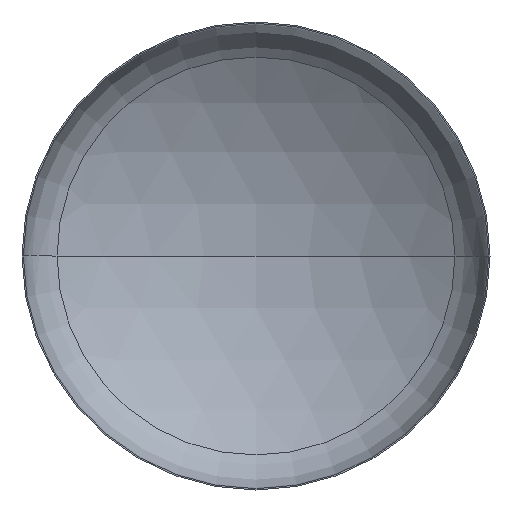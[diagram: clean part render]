
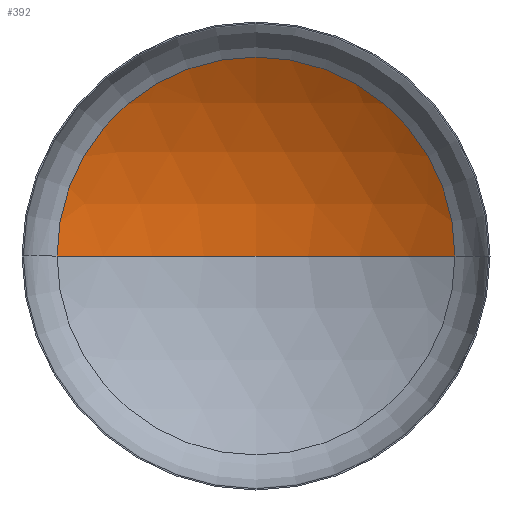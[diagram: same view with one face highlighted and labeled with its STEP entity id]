
A CAD part, front view. The second image highlights one B-rep face of the part: STEP entity #392.
In plain terms, the highlighted spherical face has radius 5200 mm.
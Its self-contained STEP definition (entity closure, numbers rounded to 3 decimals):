
#1 = CIRCLE ( 'NONE', #61, 5200. ) ;
#2 = CARTESIAN_POINT ( 'NONE',  ( 0., -3502.833, 0. ) ) ;
#28 = VERTEX_POINT ( 'NONE', #169 ) ;
#38 = ORIENTED_EDGE ( 'NONE', *, *, #121, .T. ) ;
#48 = ORIENTED_EDGE ( 'NONE', *, *, #122, .T. ) ;
#49 = VERTEX_POINT ( 'NONE', #74 ) ;
#58 = VERTEX_POINT ( 'NONE', #183 ) ;
#59 = AXIS2_PLACEMENT_3D ( 'NONE', #2, #270, #70 ) ;
#61 = AXIS2_PLACEMENT_3D ( 'NONE', #204, #364, #226 ) ;
#64 = AXIS2_PLACEMENT_3D ( 'NONE', #293, #132, #313 ) ;
#70 = DIRECTION ( 'NONE',  ( 1., 0., 0. ) ) ;
#74 = CARTESIAN_POINT ( 'NONE',  ( 2763.429, 902.103, 0. ) ) ;
#101 = ORIENTED_EDGE ( 'NONE', *, *, #124, .F. ) ;
#121 = EDGE_CURVE ( 'NONE', #49, #28, #164, .T. ) ;
#122 = EDGE_CURVE ( 'NONE', #58, #49, #1, .T. ) ;
#124 = EDGE_CURVE ( 'NONE', #58, #28, #347, .T. ) ;
#132 = DIRECTION ( 'NONE',  ( 0., -1., 0. ) ) ;
#153 = EDGE_LOOP ( 'NONE', ( #101, #48, #38 ) ) ;
#164 = CIRCLE ( 'NONE', #64, 2763.429 ) ;
#169 = CARTESIAN_POINT ( 'NONE',  ( -2763.429, 902.103, 0. ) ) ;
#183 = CARTESIAN_POINT ( 'NONE',  ( 0., 1697.167, 0. ) ) ;
#188 = DIRECTION ( 'NONE',  ( -1., 0., 0. ) ) ;
#204 = CARTESIAN_POINT ( 'NONE',  ( 0., -3502.833, 0. ) ) ;
#226 = DIRECTION ( 'NONE',  ( -1., 0., 0. ) ) ;
#234 = CARTESIAN_POINT ( 'NONE',  ( 0., -3502.833, 0. ) ) ;
#240 = FACE_OUTER_BOUND ( 'NONE', #153, .T. ) ;
#270 = DIRECTION ( 'NONE',  ( 0., 0., 1. ) ) ;
#279 = DIRECTION ( 'NONE',  ( 0., 0., -1. ) ) ;
#293 = CARTESIAN_POINT ( 'NONE',  ( 0., 902.103, 0. ) ) ;
#298 = SPHERICAL_SURFACE ( 'NONE', #367, 5200. ) ;
#313 = DIRECTION ( 'NONE',  ( 1., 0., 0. ) ) ;
#347 = CIRCLE ( 'NONE', #59, 5200. ) ;
#364 = DIRECTION ( 'NONE',  ( 0., 0., -1. ) ) ;
#367 = AXIS2_PLACEMENT_3D ( 'NONE', #234, #279, #188 ) ;
#392 = ADVANCED_FACE ( 'NONE', ( #240 ), #298, .F. ) ;
